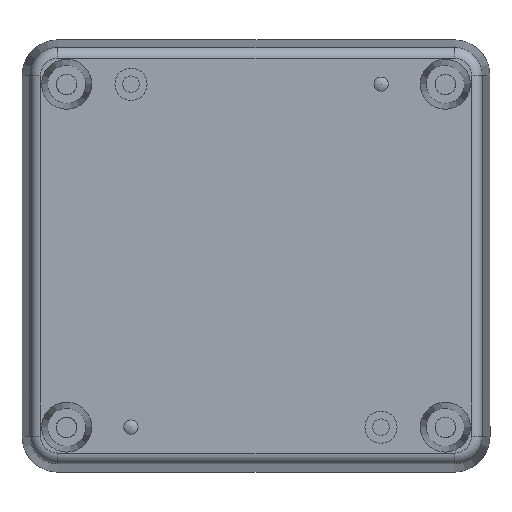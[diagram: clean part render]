
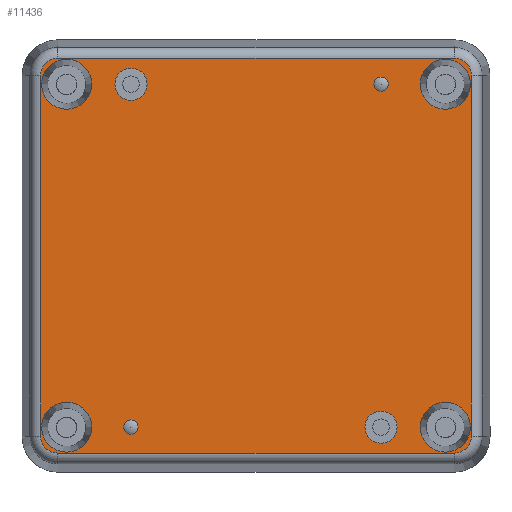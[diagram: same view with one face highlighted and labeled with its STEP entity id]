
A CAD part, top view. The second image highlights one B-rep face of the part: STEP entity #11436.
In plain terms, the highlighted planar face has unit normal (0, 0, 1).
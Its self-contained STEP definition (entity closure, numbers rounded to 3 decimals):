
#10597=CARTESIAN_POINT('',(-30.135,-25.25,27.0));
#10598=VERTEX_POINT('',#10597);
#10606=CARTESIAN_POINT('',(-30.135,25.25,27.0));
#10607=VERTEX_POINT('',#10606);
#10608=CARTESIAN_POINT('',(-30.135,-25.25,27.0));
#10609=DIRECTION('',(0.0,1.0,0.0));
#10610=VECTOR('',#10609,50.5);
#10611=LINE('',#10608,#10610);
#10612=EDGE_CURVE('',#10607,#10598,#10611,.F.);
#10875=CARTESIAN_POINT('',(30.135,25.25,27.0));
#10876=VERTEX_POINT('',#10875);
#10886=CARTESIAN_POINT('',(30.135,-25.25,27.0));
#10887=VERTEX_POINT('',#10886);
#10888=CARTESIAN_POINT('',(30.135,25.25,27.0));
#10889=DIRECTION('',(0.0,-1.0,0.0));
#10890=VECTOR('',#10889,50.5);
#10891=LINE('',#10888,#10890);
#10892=EDGE_CURVE('',#10887,#10876,#10891,.F.);
#11291=CARTESIAN_POINT('',(-27.75,-25.25,27.0));
#11292=DIRECTION('',(0.0,0.0,1.0));
#11293=DIRECTION('',(1.0,0.0,0.0));
#11294=AXIS2_PLACEMENT_3D('',#11291,#11292,#11293);
#11295=PLANE('',#11294);
#11296=CARTESIAN_POINT('',(-27.75,27.635,27.0));
#11297=VERTEX_POINT('',#11296);
#11298=CARTESIAN_POINT('',(-27.75,25.25,27.0));
#11299=DIRECTION('',(0.0,0.0,1.0));
#11300=DIRECTION('',(1.0,0.0,0.0));
#11301=AXIS2_PLACEMENT_3D('',#11298,#11299,#11300);
#11302=CIRCLE('',#11301,2.385);
#11303=EDGE_CURVE('',#11297,#10607,#11302,.T.);
#11304=ORIENTED_EDGE('',*,*,#11303,.T.);
#11305=ORIENTED_EDGE('',*,*,#10612,.T.);
#11306=CARTESIAN_POINT('',(-27.75,-27.635,27.0));
#11307=VERTEX_POINT('',#11306);
#11308=CARTESIAN_POINT('',(-27.75,-25.25,27.0));
#11309=DIRECTION('',(0.0,0.0,1.0));
#11310=DIRECTION('',(1.0,0.0,0.0));
#11311=AXIS2_PLACEMENT_3D('',#11308,#11309,#11310);
#11312=CIRCLE('',#11311,2.385);
#11313=EDGE_CURVE('',#10598,#11307,#11312,.T.);
#11314=ORIENTED_EDGE('',*,*,#11313,.T.);
#11315=CARTESIAN_POINT('',(27.75,-27.635,27.0));
#11316=VERTEX_POINT('',#11315);
#11317=CARTESIAN_POINT('',(27.75,-27.635,27.0));
#11318=DIRECTION('',(-1.0,0.0,0.0));
#11319=VECTOR('',#11318,55.5);
#11320=LINE('',#11317,#11319);
#11321=EDGE_CURVE('',#11307,#11316,#11320,.F.);
#11322=ORIENTED_EDGE('',*,*,#11321,.T.);
#11323=CARTESIAN_POINT('',(27.75,-25.25,27.0));
#11324=DIRECTION('',(0.0,0.0,1.0));
#11325=DIRECTION('',(1.0,0.0,0.0));
#11326=AXIS2_PLACEMENT_3D('',#11323,#11324,#11325);
#11327=CIRCLE('',#11326,2.385);
#11328=EDGE_CURVE('',#11316,#10887,#11327,.T.);
#11329=ORIENTED_EDGE('',*,*,#11328,.T.);
#11330=ORIENTED_EDGE('',*,*,#10892,.T.);
#11331=CARTESIAN_POINT('',(27.75,27.635,27.0));
#11332=VERTEX_POINT('',#11331);
#11333=CARTESIAN_POINT('',(27.75,25.25,27.0));
#11334=DIRECTION('',(0.0,0.0,1.0));
#11335=DIRECTION('',(1.0,0.0,0.0));
#11336=AXIS2_PLACEMENT_3D('',#11333,#11334,#11335);
#11337=CIRCLE('',#11336,2.385);
#11338=EDGE_CURVE('',#10876,#11332,#11337,.T.);
#11339=ORIENTED_EDGE('',*,*,#11338,.T.);
#11340=CARTESIAN_POINT('',(-27.75,27.635,27.0));
#11341=DIRECTION('',(1.0,0.0,0.0));
#11342=VECTOR('',#11341,55.5);
#11343=LINE('',#11340,#11342);
#11344=EDGE_CURVE('',#11332,#11297,#11343,.F.);
#11345=ORIENTED_EDGE('',*,*,#11344,.T.);
#11346=EDGE_LOOP('',(#11304,#11305,#11314,#11322,#11329,#11330,#11339,#11345));
#11347=FACE_OUTER_BOUND('',#11346,.T.);
#11348=CARTESIAN_POINT('',(18.5,24.,27.0));
#11349=VERTEX_POINT('',#11348);
#11350=CARTESIAN_POINT('',(17.5,24.,27.0));
#11351=DIRECTION('',(0.0,0.0,1.0));
#11352=DIRECTION('',(1.0,0.0,0.0));
#11353=AXIS2_PLACEMENT_3D('',#11350,#11351,#11352);
#11354=CIRCLE('',#11353,1.0);
#11355=EDGE_CURVE('',#11349,#11349,#11354,.T.);
#11356=ORIENTED_EDGE('',*,*,#11355,.F.);
#11357=EDGE_LOOP('',(#11356));
#11358=FACE_BOUND('',#11357,.T.);
#11359=CARTESIAN_POINT('',(-16.5,-24.,27.0));
#11360=VERTEX_POINT('',#11359);
#11361=CARTESIAN_POINT('',(-17.5,-24.,27.0));
#11362=DIRECTION('',(0.0,0.0,1.0));
#11363=DIRECTION('',(1.0,0.0,0.0));
#11364=AXIS2_PLACEMENT_3D('',#11361,#11362,#11363);
#11365=CIRCLE('',#11364,1.0);
#11366=EDGE_CURVE('',#11360,#11360,#11365,.T.);
#11367=ORIENTED_EDGE('',*,*,#11366,.F.);
#11368=EDGE_LOOP('',(#11367));
#11369=FACE_BOUND('',#11368,.T.);
#11370=CARTESIAN_POINT('',(-15.25,24.,27.0));
#11371=VERTEX_POINT('',#11370);
#11372=CARTESIAN_POINT('',(-17.5,24.,27.0));
#11373=DIRECTION('',(0.0,0.0,1.0));
#11374=DIRECTION('',(1.0,0.0,0.0));
#11375=AXIS2_PLACEMENT_3D('',#11372,#11373,#11374);
#11376=CIRCLE('',#11375,2.25);
#11377=EDGE_CURVE('',#11371,#11371,#11376,.T.);
#11378=ORIENTED_EDGE('',*,*,#11377,.F.);
#11379=EDGE_LOOP('',(#11378));
#11380=FACE_BOUND('',#11379,.T.);
#11381=CARTESIAN_POINT('',(30.0,-24.,27.0));
#11382=VERTEX_POINT('',#11381);
#11383=CARTESIAN_POINT('',(26.5,-24.,27.0));
#11384=DIRECTION('',(0.0,0.0,1.0));
#11385=DIRECTION('',(1.0,0.0,0.0));
#11386=AXIS2_PLACEMENT_3D('',#11383,#11384,#11385);
#11387=CIRCLE('',#11386,3.5);
#11388=EDGE_CURVE('',#11382,#11382,#11387,.T.);
#11389=ORIENTED_EDGE('',*,*,#11388,.F.);
#11390=EDGE_LOOP('',(#11389));
#11391=FACE_BOUND('',#11390,.T.);
#11392=CARTESIAN_POINT('',(23.,24.,27.0));
#11393=VERTEX_POINT('',#11392);
#11394=CARTESIAN_POINT('',(26.5,24.,27.0));
#11395=DIRECTION('',(0.0,0.0,-1.0));
#11396=DIRECTION('',(-1.0,0.0,0.0));
#11397=AXIS2_PLACEMENT_3D('',#11394,#11395,#11396);
#11398=CIRCLE('',#11397,3.5);
#11399=EDGE_CURVE('',#11393,#11393,#11398,.T.);
#11400=ORIENTED_EDGE('',*,*,#11399,.T.);
#11401=EDGE_LOOP('',(#11400));
#11402=FACE_BOUND('',#11401,.T.);
#11403=CARTESIAN_POINT('',(-23.,24.,27.0));
#11404=VERTEX_POINT('',#11403);
#11405=CARTESIAN_POINT('',(-26.5,24.,27.0));
#11406=DIRECTION('',(0.0,0.0,1.0));
#11407=DIRECTION('',(1.0,0.0,0.0));
#11408=AXIS2_PLACEMENT_3D('',#11405,#11406,#11407);
#11409=CIRCLE('',#11408,3.5);
#11410=EDGE_CURVE('',#11404,#11404,#11409,.T.);
#11411=ORIENTED_EDGE('',*,*,#11410,.F.);
#11412=EDGE_LOOP('',(#11411));
#11413=FACE_BOUND('',#11412,.T.);
#11414=CARTESIAN_POINT('',(-30.0,-24.,27.0));
#11415=VERTEX_POINT('',#11414);
#11416=CARTESIAN_POINT('',(-26.5,-24.,27.0));
#11417=DIRECTION('',(0.0,0.0,-1.0));
#11418=DIRECTION('',(-1.0,0.0,0.0));
#11419=AXIS2_PLACEMENT_3D('',#11416,#11417,#11418);
#11420=CIRCLE('',#11419,3.5);
#11421=EDGE_CURVE('',#11415,#11415,#11420,.T.);
#11422=ORIENTED_EDGE('',*,*,#11421,.T.);
#11423=EDGE_LOOP('',(#11422));
#11424=FACE_BOUND('',#11423,.T.);
#11425=CARTESIAN_POINT('',(19.75,-24.,27.0));
#11426=VERTEX_POINT('',#11425);
#11427=CARTESIAN_POINT('',(17.5,-24.,27.0));
#11428=DIRECTION('',(0.0,0.0,1.0));
#11429=DIRECTION('',(1.0,0.0,0.0));
#11430=AXIS2_PLACEMENT_3D('',#11427,#11428,#11429);
#11431=CIRCLE('',#11430,2.25);
#11432=EDGE_CURVE('',#11426,#11426,#11431,.T.);
#11433=ORIENTED_EDGE('',*,*,#11432,.F.);
#11434=EDGE_LOOP('',(#11433));
#11435=FACE_BOUND('',#11434,.T.);
#11436=ADVANCED_FACE('',(#11347,#11358,#11369,#11380,#11391,#11402,#11413,#11424,#11435),#11295,.T.);
